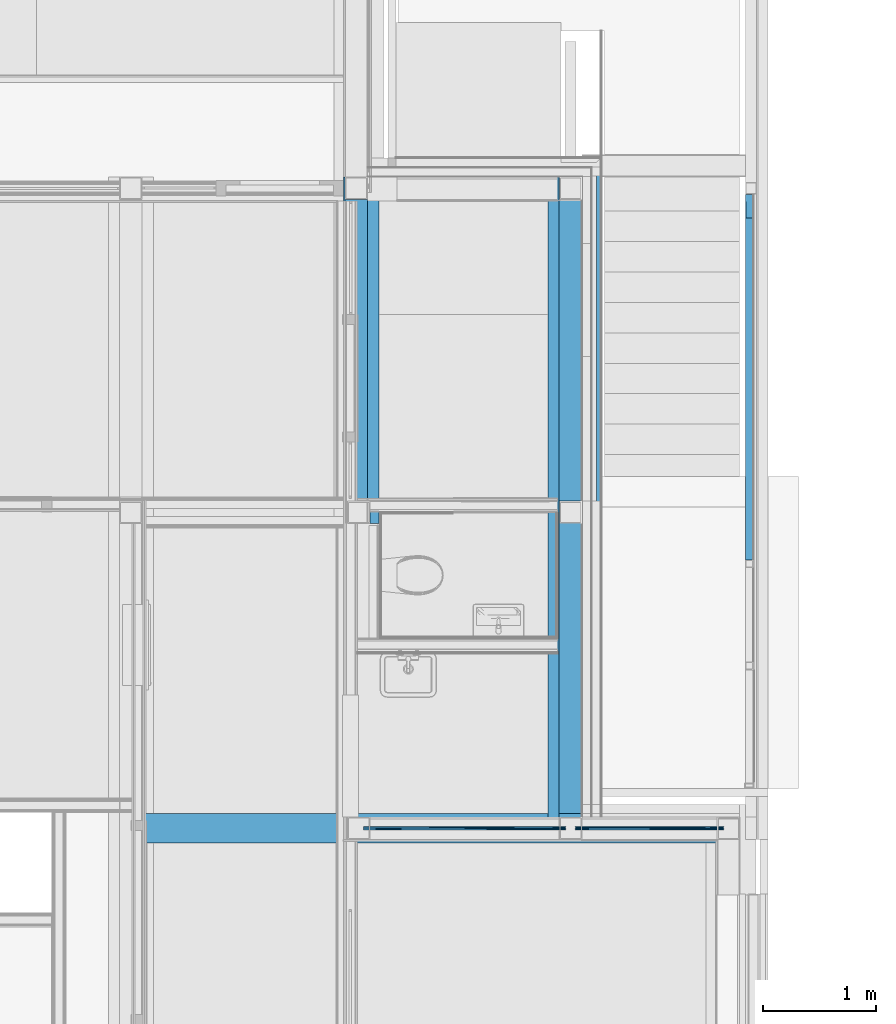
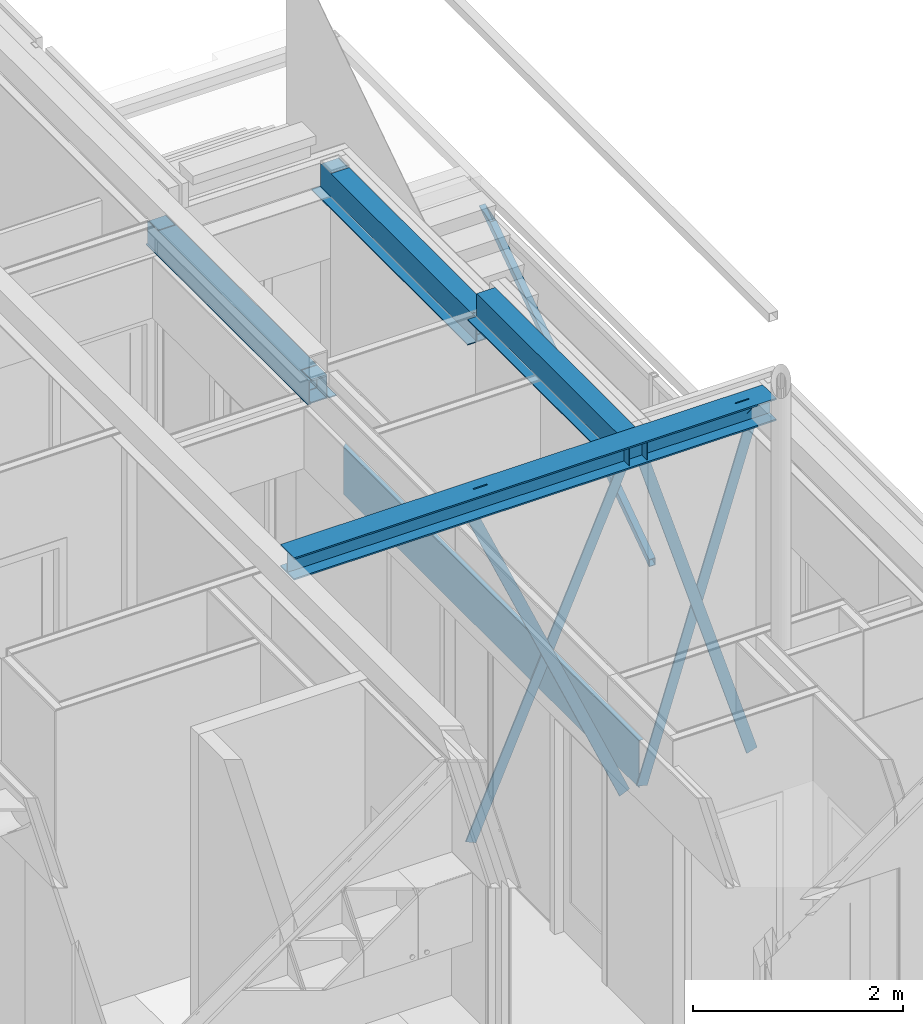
# One storey, part 14 of 165: 10 beams.
"""IFC2X3 building model written with IfcOpenShell, lengths in millimetres."""

from ifc_helpers import new_model, entity, si_unit, converted_unit, derived_unit, money_unit, direction, frame, origin_with_axes, place, context, subcontext, project, spatial, faceted_brep, material, type_object, element, save


model = new_model("IFC2X3")

# Units and contexts
model_context = context("Model", 3, precision=0.01, world=origin_with_axes(), true_north=direction((0.0, 1.0)))
body_context = subcontext(model_context, "Body", "Model", "MODEL_VIEW")
ifc_project = project(units=[si_unit("LENGTHUNIT", "METRE", prefix="MILLI"), si_unit("AREAUNIT", "SQUARE_METRE"), si_unit("VOLUMEUNIT", "CUBIC_METRE"), converted_unit("PLANEANGLEUNIT", "DEGREE", entity("IfcPlaneAngleMeasure", 0.0174532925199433), si_unit("PLANEANGLEUNIT", "RADIAN"), dimensions=[0, 0, 0, 0, 0, 0, 0]), money_unit("EUR"), converted_unit("TIMEUNIT", "Year", entity("IfcTimeMeasure", 31556926.0), si_unit("TIMEUNIT", "SECOND"), dimensions=[0, 0, 1, 0, 0, 0, 0]), si_unit("MASSUNIT", "GRAM", prefix="KILO"), si_unit("THERMODYNAMICTEMPERATUREUNIT", "DEGREE_CELSIUS"), si_unit("LUMINOUSINTENSITYUNIT", "LUMEN"), si_unit("ENERGYUNIT", "JOULE", prefix="MEGA"), derived_unit("THERMALCONDUCTANCEUNIT", [(si_unit("POWERUNIT", "WATT"), 1), (si_unit("LENGTHUNIT", "METRE"), -1), (si_unit("THERMODYNAMICTEMPERATUREUNIT", "KELVIN"), -1)]), derived_unit("SPECIFICHEATCAPACITYUNIT", [(si_unit("ENERGYUNIT", "JOULE"), 1), (si_unit("MASSUNIT", "GRAM", prefix="KILO"), -1), (si_unit("THERMODYNAMICTEMPERATUREUNIT", "KELVIN"), -1)]), derived_unit("MASSDENSITYUNIT", [(si_unit("MASSUNIT", "GRAM", prefix="KILO"), 1), (si_unit("VOLUMEUNIT", "CUBIC_METRE"), -1)])], contexts=[model_context])

# Site, building, storey
site_placement = place(None, origin_with_axes())
site = spatial("IfcSite", under=ifc_project, at=site_placement, Name="Site", CompositionType="ELEMENT")
building_placement = place(site_placement, origin_with_axes())
building = spatial("IfcBuilding", under=site, at=building_placement, Name="Naam gebouw", CompositionType="ELEMENT")
storey_placement = place(building_placement, origin_with_axes())
storey = spatial("IfcBuildingStorey", under=building, at=storey_placement, Name="Begane grond", CompositionType="ELEMENT", Elevation=0.0)

# Beams
ifc_material_1 = material(Name="Metaal - Staal C")
beam_type_1 = type_object("IfcBeamType", Name="HEB260 260 x 260", PredefinedType="BEAM")
beam_1_placement = place(storey_placement, frame((29900.0, 16649.99778166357, 3730.0), z_axis=(0.0, 0.0, 1.0), x_axis=(0.0, 1.0, 0.0)))
element("IfcBeam", 1, at=beam_1_placement, inside=storey, type_object=beam_type_1, material=ifc_material_1, Name="h METAAL_Regenwaterafvoer-x", ObjectType="BEAM", context=body_context, shape_type="Brep", body=[
    faceted_brep([(-129.999999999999, 0.0, -129.9999999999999), (-129.999999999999, 5299.000960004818, -129.9999999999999), (129.999999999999, 5299.000960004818, -129.9999999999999), (129.999999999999, 0.0, -129.9999999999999), (15.00000000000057, 1645.357160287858, -129.9999999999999), (15.00000000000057, 1656.75517363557, -129.9999999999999), (0.0, 1656.75517363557, -129.9999999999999), (0.0, 1645.357160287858, -129.9999999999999), (0.0, 3234.642856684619, -129.9999999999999), (-15.00000000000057, 3234.642856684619, -129.9999999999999), (-15.00000000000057, 3223.244843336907, -129.9999999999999), (0.0, 3223.244843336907, -129.9999999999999), (-129.999999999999, 0.0, -112.4999999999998), (-129.999999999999, 5299.000960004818, -112.4999999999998), (-4.999999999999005, 5299.000960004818, -112.4999999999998), (-4.999999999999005, 5299.000960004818, 112.4999999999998), (-129.999999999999, 5299.000960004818, 112.4999999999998), (-129.999999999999, 5299.000960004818, 129.9999999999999), (129.999999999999, 5299.000960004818, 129.9999999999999), (129.999999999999, 5299.000960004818, 112.4999999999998), (4.999999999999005, 5299.000960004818, 112.4999999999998), (4.999999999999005, 5299.000960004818, -112.4999999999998), (129.999999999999, 5299.000960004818, -112.4999999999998), (129.999999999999, 0.0, -112.4999999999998), (4.999999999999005, 0.0, -112.4999999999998), (4.999999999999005, 0.0, 112.4999999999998), (129.999999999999, 0.0, 112.4999999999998), (129.999999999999, 0.0, 129.9999999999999), (-129.999999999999, 0.0, 129.9999999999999), (-129.999999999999, 0.0, 112.4999999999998), (-4.999999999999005, 0.0, 112.4999999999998), (-4.999999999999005, 0.0, -112.4999999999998), (15.00000000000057, 1654.89977943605, -125.7922309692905), (0.0, 1654.89977943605, -125.7922309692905), (-15.00000000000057, 3225.100237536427, -125.7922309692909), (0.0, 3225.100237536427, -125.7922309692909), (-4.999999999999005, 213.7915805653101, 112.4999999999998), (-4.999999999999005, 153.3396505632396, 37.72017749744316), (-4.999999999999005, 246.6603494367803, -37.72017749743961), (-4.999999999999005, 368.0981832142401, 112.4999999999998), (-15.00000000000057, 368.0981832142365, 112.4999999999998), (-15.00000000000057, 213.7915805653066, 112.4999999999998), (1.49213974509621e-10, 3252.061437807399, 129.9999999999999), (15.00000000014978, 3252.061437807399, 129.9999999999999), (15.00000000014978, 3097.754835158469, 129.9999999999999), (1.49213974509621e-10, 3097.754835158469, 129.9999999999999), (0.0, 382.2451648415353, 129.9999999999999), (0.0, 227.9385621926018, 129.9999999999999), (-15.00000000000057, 227.9385621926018, 129.9999999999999), (-15.00000000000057, 382.2451648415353, 129.9999999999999), (4.999999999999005, 3111.901816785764, 112.4999999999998), (15.00000000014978, 3111.901816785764, 112.4999999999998), (15.00000000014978, 3266.208419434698, 112.4999999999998), (4.999999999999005, 3266.208419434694, 112.4999999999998), (4.999999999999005, 3326.660349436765, 37.72017749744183), (4.999999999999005, 3233.339650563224, -37.72017749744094), (0.0, 153.3396505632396, 37.72017749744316), (0.0, 246.6603494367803, -37.72017749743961), (1.49213974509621e-10, 3326.660349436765, 37.72017749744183), (1.49213974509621e-10, 3233.339650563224, -37.72017749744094)], [[[0, 1, 2, 3], [4, 5, 6, 7], [8, 9, 10, 11]], [[12, 13, 1, 0]], [[1, 13, 14, 15, 16, 17, 18, 19, 20, 21, 22, 2]], [[3, 2, 22, 23]], [[23, 24, 25, 26, 27, 28, 29, 30, 31, 12, 0, 3]], [[4, 32, 5]], [[32, 33, 6, 5]], [[6, 33, 7]], [[33, 32, 4, 7]], [[34, 9, 8, 35]], [[34, 10, 9]], [[35, 11, 10, 34]], [[35, 8, 11]], [[31, 14, 13, 12]], [[30, 36, 37, 38, 39, 15, 14, 31]], [[15, 39, 40, 41, 36, 30, 29, 16]], [[28, 17, 16, 29]], [[27, 18, 17, 28], [42, 43, 44, 45], [46, 47, 48, 49]], [[26, 19, 18, 27]], [[26, 25, 50, 51, 52, 53, 20, 19]], [[21, 20, 53, 54, 55, 50, 25, 24]], [[23, 22, 21, 24]], [[48, 47, 56, 37, 36, 41]], [[37, 56, 57, 38]], [[46, 49, 40, 39, 38, 57]], [[40, 49, 48, 41]], [[58, 54, 53, 52, 43, 42]], [[44, 43, 52, 51]], [[51, 50, 55, 59, 45, 44]], [[42, 45, 59, 58]], [[46, 57, 56, 47]], [[55, 54, 58, 59]]]),
])
beam_type_2 = type_object("IfcBeamType", Name="28 THQ enkele flens 01 315 x 277", PredefinedType="BEAM")
beam_2_placement = place(storey_placement, frame((26500.0, 19350.00039292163, 3570.0), z_axis=(0.0, 0.0, 1.0), x_axis=(1.0, 0.0, 0.0)))
element("IfcBeam", 2, at=beam_2_placement, inside=storey, type_object=beam_type_2, material=ifc_material_1, Name="h METAAL_Regenwaterafvoer-x", ObjectType="BEAM", context=body_context, shape_type="Brep", body=[
    faceted_brep([(94.99999999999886, 10.00000000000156, -20.00000000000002), (-70.00000000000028, 10.00000000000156, -20.00000000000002), (-70.00000000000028, 190.0000000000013, -20.00000000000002), (94.99999999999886, 190.0000000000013, -20.00000000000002), (109.9999999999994, 10.00000000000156, -277.0000000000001), (109.9999999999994, 10.00000000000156, -265.0000000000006), (100.9999999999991, 10.00000000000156, -265.0000000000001), (100.9999999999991, 10.00000000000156, 0.0), (-70.00000000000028, 10.00000000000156, 0.0), (94.99999999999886, 10.00000000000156, -265.0000000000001), (-70.00000000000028, 10.00000000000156, -265.0000000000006), (-70.00000000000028, 10.00000000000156, -277.0000000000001), (-70.00000000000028, 190.0000000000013, 0.0), (100.9999999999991, 190.0000000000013, 0.0), (100.9999999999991, 190.0000000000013, -265.0000000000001), (109.9999999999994, 190.0000000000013, -265.0000000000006), (109.9999999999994, 190.0000000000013, -277.0000000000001), (-70.00000000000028, 190.0000000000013, -277.0000000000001), (-70.00000000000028, 190.0000000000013, -265.0000000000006), (94.99999999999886, 190.0000000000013, -265.0000000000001)], [[[0, 1, 2, 3]], [[4, 5, 6, 7, 8, 1, 0, 9, 10, 11]], [[1, 8, 12, 2]], [[13, 14, 15, 16, 17, 18, 19, 3, 2, 12]], [[19, 9, 0, 3]], [[16, 15, 5, 4]], [[14, 6, 5, 15]], [[13, 7, 6, 14]], [[12, 8, 7, 13]], [[18, 10, 9, 19]], [[11, 10, 18, 17]], [[4, 11, 17, 16]]]),
    faceted_brep([(90.00000000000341, 2884.99945414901, -277.0000000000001), (-89.9999999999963, 2884.99945414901, -277.0000000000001), (-89.9999999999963, 3064.99945414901, -277.0000000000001), (90.00000000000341, 3064.99945414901, -277.0000000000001), (90.00000000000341, 2884.99945414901, -265.0000000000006), (-89.9999999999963, 2884.99945414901, -265.0000000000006), (-89.9999999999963, 3064.99945414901, -265.0000000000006), (90.00000000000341, 3064.99945414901, -265.0000000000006)], [[[0, 1, 2, 3]], [[0, 4, 5, 1]], [[1, 5, 6, 2]], [[2, 6, 7, 3]], [[3, 7, 4, 0]], [[6, 5, 4, 7]]]),
    faceted_brep([(90.00000000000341, 2884.99945414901, -20.00000000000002), (-89.9999999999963, 2884.99945414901, -20.00000000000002), (-89.9999999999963, 3064.99945414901, -20.00000000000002), (90.00000000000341, 3064.99945414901, -20.00000000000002), (90.00000000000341, 2884.99945414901, 0.0), (-89.9999999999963, 2884.99945414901, 0.0), (-89.9999999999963, 3064.99945414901, 0.0), (90.00000000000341, 3064.99945414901, 0.0)], [[[0, 1, 2, 3]], [[0, 4, 5, 1]], [[1, 5, 6, 2]], [[2, 6, 7, 3]], [[3, 7, 4, 0]], [[6, 5, 4, 7]]]),
    faceted_brep([(-94.99999999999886, 0.0, -20.00000000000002), (-94.99999999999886, 2874.999454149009, -20.00000000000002), (94.99999999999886, 2874.999454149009, -20.00000000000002), (94.99999999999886, 200.0000000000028, -20.00000000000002), (-80.00000000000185, 200.0000000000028, -20.00000000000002), (-80.00000000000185, 0.0, -20.00000000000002), (-94.99999999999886, 0.0, -265.0000000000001), (-94.99999999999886, 2874.999454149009, -265.0000000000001), (-99.99999999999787, 2874.999454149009, -277.0000000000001), (-99.99999999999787, 2874.999454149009, 0.0), (100.000000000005, 2874.999454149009, 0.0), (100.000000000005, 2874.999454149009, -277.0000000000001), (94.99999999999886, 2874.999454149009, -265.0000000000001), (94.99999999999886, 200.0000000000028, -265.0000000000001), (120.000000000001, 200.0000000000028, -277.0000000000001), (120.000000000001, 200.0000000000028, -265.0000000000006), (100.9999999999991, 200.0000000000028, -265.0000000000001), (100.9999999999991, 200.0000000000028, 0.0), (-80.00000000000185, 200.0000000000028, 0.0), (-80.00000000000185, 200.0000000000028, -265.0000000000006), (-80.00000000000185, 200.0000000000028, -277.0000000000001), (-80.00000000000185, 0.0, 0.0), (-100.9999999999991, 0.0, 0.0), (-100.9999999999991, 0.0, -265.0000000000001), (-115.9999999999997, 0.0, -265.0000000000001), (-115.9999999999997, 0.0, -277.0000000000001), (-80.00000000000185, 0.0, -277.0000000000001), (-80.00000000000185, 0.0, -265.0000000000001), (-99.99999999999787, 3074.999454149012, -277.0000000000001), (-99.99999999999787, 3074.999454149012, 0.0), (-100.9999999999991, 3074.999454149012, 0.0), (100.9999999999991, 3074.999454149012, 0.0), (100.000000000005, 3074.999454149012, 0.0), (100.000000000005, 3074.999454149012, -277.0000000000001), (199.0000044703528, 3074.999454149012, -277.0000000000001), (199.0000044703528, 0.0, -277.0000000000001), (120.000000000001, 0.0, -277.000000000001), (-115.9999999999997, 3074.999454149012, -277.0000000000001), (120.000000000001, 0.0, -265.0000000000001), (199.0000044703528, 0.0, -265.0000000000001), (199.0000044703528, 3074.999454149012, -265.0000000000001), (100.9999999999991, 3074.999454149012, -265.0000000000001), (-100.9999999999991, 3074.999454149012, -265.0000000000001), (-115.9999999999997, 3074.999454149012, -265.0000000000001)], [[[0, 1, 2, 3, 4, 5]], [[6, 7, 1, 0]], [[8, 9, 10, 11], [7, 12, 2, 1]], [[3, 2, 12, 13]], [[14, 15, 16, 17, 18, 4, 3, 13, 19, 20]], [[4, 18, 21, 5]], [[0, 5, 21, 22, 23, 24, 25, 26, 27, 6]], [[13, 12, 7, 6, 27, 19]], [[8, 28, 29, 9]], [[10, 9, 29, 30, 22, 21, 18, 17, 31, 32]], [[11, 10, 32, 33]], [[8, 11, 33, 34, 35, 36, 14, 20, 26, 25, 37, 28]], [[36, 38, 15, 14]], [[16, 15, 38, 39, 40, 41]], [[31, 17, 16, 41]], [[20, 19, 27, 26]], [[23, 22, 30, 42]], [[24, 23, 42, 43]], [[25, 24, 43, 37]], [[30, 29, 28, 37, 43, 42]], [[34, 33, 32, 31, 41, 40]], [[39, 35, 34, 40]], [[39, 38, 36, 35]]]),
])
beam_3_placement = place(storey_placement, frame((28399.99998302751, 22424.97621406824, 3570.0), z_axis=(0.0, 0.0, 1.0), x_axis=(-1.0, 0.0, 0.0)))
element("IfcBeam", 3, at=beam_3_placement, inside=storey, type_object=beam_type_2, material=ifc_material_1, Name="h METAAL_Regenwaterafvoer-x", ObjectType="BEAM", context=body_context, shape_type="Brep", body=[
    faceted_brep([(-90.00000112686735, 190.0000000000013, -277.0000000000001), (89.99999887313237, 190.0000000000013, -277.0000000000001), (89.99999887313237, 10.00000000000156, -277.0000000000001), (-90.00000112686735, 10.00000000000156, -277.0000000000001), (-90.00000112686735, 190.0000000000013, -265.0000000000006), (89.99999887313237, 190.0000000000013, -265.0000000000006), (89.99999887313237, 10.00000000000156, -265.0000000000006), (-90.00000112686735, 10.00000000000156, -265.0000000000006)], [[[0, 1, 2, 3]], [[0, 4, 5, 1]], [[1, 5, 6, 2]], [[2, 6, 7, 3]], [[3, 7, 4, 0]], [[6, 5, 4, 7]]]),
    faceted_brep([(-90.00000112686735, 190.0000000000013, -20.00000000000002), (89.99999887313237, 190.0000000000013, -20.00000000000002), (89.99999887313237, 10.00000000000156, -20.00000000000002), (-90.00000112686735, 10.00000000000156, -20.00000000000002), (-90.00000112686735, 190.0000000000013, 0.0), (89.99999887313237, 190.0000000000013, 0.0), (89.99999887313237, 10.00000000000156, 0.0), (-90.00000112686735, 10.00000000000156, 0.0)], [[[0, 1, 2, 3]], [[0, 4, 5, 1]], [[1, 5, 6, 2]], [[2, 6, 7, 3]], [[3, 7, 4, 0]], [[6, 5, 4, 7]]]),
    faceted_brep([(-90.00000112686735, 2884.975821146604, -265.0000000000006), (89.99999887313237, 2884.975821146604, -265.0000000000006), (89.99999887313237, 2974.975821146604, -265.0000000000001), (-90.00000112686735, 2974.975821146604, -265.0000000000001), (89.99999887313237, 2884.975821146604, -277.0000000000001), (-90.00000112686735, 2884.975821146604, -277.0000000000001), (89.99999887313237, 2974.975821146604, -277.0000000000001), (-90.00000112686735, 2974.975821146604, -277.0000000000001)], [[[0, 1, 2, 3]], [[4, 1, 0, 5]], [[6, 2, 1, 4]], [[6, 7, 3, 2]], [[5, 0, 3, 7]], [[4, 5, 7, 6]]]),
    faceted_brep([(-90.00000112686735, 2884.975821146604, 0.0), (89.99999887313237, 2884.975821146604, 0.0), (89.99999887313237, 2974.975821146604, 0.0), (-90.00000112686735, 2974.975821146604, 0.0), (89.99999887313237, 2884.975821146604, -20.00000000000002), (-90.00000112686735, 2884.975821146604, -20.00000000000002), (89.99999887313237, 2974.975821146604, -20.00000000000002), (-90.00000112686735, 2974.975821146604, -20.00000000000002)], [[[0, 1, 2, 3]], [[4, 1, 0, 5]], [[6, 2, 1, 4]], [[6, 7, 3, 2]], [[5, 0, 3, 7]], [[4, 5, 7, 6]]]),
    faceted_brep([(-94.99999999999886, 200.0000000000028, -265.0000000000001), (-94.99999999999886, 2874.975821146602, -265.0000000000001), (-94.99999999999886, 2874.975821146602, -20.00000000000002), (-94.99999999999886, 200.0000000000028, -20.00000000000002), (94.99999999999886, 200.0000000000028, -265.0000000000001), (94.99999999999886, 2874.975821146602, -265.0000000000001), (-100.0000011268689, 2874.975821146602, -277.0000000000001), (-100.0000011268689, 2874.975821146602, 0.0), (99.99999887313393, 2874.975821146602, 0.0), (99.99999887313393, 2874.975821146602, -277.0000000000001), (94.99999999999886, 2874.975821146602, -20.00000000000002), (94.99999999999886, 200.0000000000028, -20.00000000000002), (99.99999887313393, 200.0000000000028, -277.0000000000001), (99.99999887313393, 200.0000000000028, 0.0), (-100.0000011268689, 200.0000000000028, 0.0), (-100.0000011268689, 200.0000000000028, -277.0000000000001), (-100.0000011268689, 2974.975821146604, -277.0000000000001), (-100.0000011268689, 2974.975821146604, 0.0), (100.9999999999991, 2974.975821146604, 0.0), (99.99999887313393, 2974.975821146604, 0.0), (-100.9999999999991, 2974.975821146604, 0.0), (-100.9999999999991, 0.0, 0.0), (-100.0000011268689, 0.0, 0.0), (99.99999887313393, 0.0, 0.0), (100.9999999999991, 0.0, 0.0), (99.99999887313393, 2974.975821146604, -277.0000000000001), (199.0000044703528, 2974.975821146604, -277.0000000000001), (199.0000044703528, 0.0, -277.0000000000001), (99.99999887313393, 0.0, -277.0000000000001), (-100.0000011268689, 0.0, -277.0000000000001), (-115.9999999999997, 0.0, -277.0000000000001), (-115.9999999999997, 2974.975821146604, -277.0000000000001), (-115.9999999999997, 2974.975821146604, -265.0000000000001), (-100.9999999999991, 2974.975821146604, -265.0000000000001), (100.9999999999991, 2974.975821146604, -265.0000000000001), (199.0000044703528, 2974.975821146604, -265.0000000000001), (-100.9999999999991, 0.0, -265.0000000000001), (-115.9999999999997, 0.0, -265.0000000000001), (199.0000044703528, 0.0, -265.0000000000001), (100.9999999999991, 0.0, -265.0000000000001)], [[[0, 1, 2, 3]], [[4, 5, 1, 0]], [[6, 7, 8, 9], [5, 10, 2, 1]], [[3, 2, 10, 11]], [[12, 13, 14, 15], [4, 0, 3, 11]], [[11, 10, 5, 4]], [[16, 17, 7, 6]], [[18, 19, 8, 7, 17, 20, 21, 22, 14, 13, 23, 24]], [[9, 8, 19, 25]], [[6, 9, 25, 26, 27, 28, 12, 15, 29, 30, 31, 16]], [[12, 28, 23, 13]], [[15, 14, 22, 29]], [[20, 17, 16, 31, 32, 33]], [[26, 25, 19, 18, 34, 35]], [[36, 21, 20, 33]], [[30, 29, 22, 21, 36, 37]], [[24, 23, 28, 27, 38, 39]], [[24, 39, 34, 18]], [[38, 27, 26, 35]], [[30, 37, 32, 31]], [[37, 36, 33, 32]], [[39, 38, 35, 34]]]),
])
beam_4_placement = place(storey_placement, frame((28400.00000447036, 19450.00039292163, 3859.999999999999), z_axis=(0.0, 0.0, 1.0), x_axis=(-1.0, 0.0, 0.0)))
element("IfcBeam", 4, at=beam_4_placement, inside=storey, type_object=beam_type_2, material=ifc_material_1, Name="h METAAL_Regenwaterafvoer-x", ObjectType="BEAM", context=body_context, shape_type="Brep", body=[
    faceted_brep([(-89.99997855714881, 2890.002611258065, -276.9999999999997), (90.00002144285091, 2890.002611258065, -276.9999999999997), (90.00002144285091, 2710.002611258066, -276.9999999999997), (-89.99997855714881, 2710.002611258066, -276.9999999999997), (-89.99997855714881, 2890.002611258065, -265.0000000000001), (90.00002144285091, 2890.002611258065, -265.0000000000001), (90.00002144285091, 2710.002611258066, -265.0000000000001), (-89.99997855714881, 2710.002611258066, -265.0000000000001)], [[[0, 1, 2, 3]], [[0, 4, 5, 1]], [[1, 5, 6, 2]], [[2, 6, 7, 3]], [[3, 7, 4, 0]], [[6, 5, 4, 7]]]),
    faceted_brep([(90.00002031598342, 0.0, -265.0000000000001), (90.00002031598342, 89.99999999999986, -265.0000000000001), (-89.9999796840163, 89.99999999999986, -265.0000000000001), (-89.9999796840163, 0.0, -265.0000000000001), (90.00002031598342, 89.99999999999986, -276.9999999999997), (90.00002031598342, 0.0, -277.0000000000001), (-89.9999796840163, 89.99999999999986, -276.9999999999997), (-89.9999796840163, 0.0, -277.0000000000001)], [[[0, 1, 2, 3]], [[4, 1, 0, 5]], [[6, 2, 1, 4]], [[6, 7, 3, 2]], [[7, 5, 0, 3]], [[6, 4, 5, 7]]]),
    faceted_brep([(94.99999999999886, 0.0, -260.0000000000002), (100.000020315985, 0.0, -260.0000000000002), (100.000020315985, 0.0, -277.0000000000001), (199.0000044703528, 0.0, -277.0000000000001), (199.0000044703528, 0.0, -265.0000000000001), (100.9999999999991, 0.0, -265.0000000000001), (100.9999999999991, 0.0, 0.0), (-100.9999999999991, 0.0, 0.0), (-100.9999999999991, 0.0, -265.0000000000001), (-115.9999999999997, 0.0, -265.0000000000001), (-115.9999999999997, 0.0, -277.0000000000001), (-99.99997968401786, 0.0, -277.0000000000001), (-99.99997968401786, 0.0, -260.0000000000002), (-94.99999999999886, 0.0, -260.0000000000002), (-94.99999999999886, 0.0, -20.00000000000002), (94.99999999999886, 0.0, -20.00000000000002), (100.000020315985, 100.0000000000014, -260.0000000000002), (94.99999999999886, 100.0000000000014, -260.0000000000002), (100.000020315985, 100.0000000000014, -276.9999999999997), (-99.99997968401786, 100.0000000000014, -276.9999999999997), (-115.9999999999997, 2800.002611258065, -277.0000000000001), (-109.5249784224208, 2800.002611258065, -277.0000000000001), (-109.5249784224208, 2815.002611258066, -277.0000000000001), (-115.9999999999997, 2815.002611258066, -277.0000000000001), (-115.9999999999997, 2900.002611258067, -277.0000000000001), (-99.99997855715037, 2900.002611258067, -276.9999999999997), (-99.99997855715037, 2700.002611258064, -276.9999999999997), (100.0000214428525, 2700.002611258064, -276.9999999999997), (100.0000214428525, 2900.002611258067, -277.0000000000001), (199.0000044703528, 2900.002611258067, -277.0000000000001), (106.8035929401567, 2800.002611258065, -277.0000000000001), (106.8035929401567, 2785.002611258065, -277.0000000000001), (164.2512410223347, 2785.002611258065, -277.0000000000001), (164.2512410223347, 2800.002611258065, -277.0000000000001), (199.0000044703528, 2900.002611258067, -265.0000000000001), (100.9999999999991, 2900.002611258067, -265.0000000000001), (158.9599024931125, 2785.002611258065, -265.0000000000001), (134.0178789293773, 2785.002611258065, -265.0000000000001), (134.0178789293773, 2800.002611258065, -265.0000000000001), (158.9599024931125, 2800.002611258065, -265.0000000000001), (100.9999999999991, 2795.002611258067, -242.4999999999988), (100.9999999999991, 2795.002611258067, -17.49999999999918), (100.9999999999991, 2670.002611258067, -17.49999999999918), (100.9999999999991, 2670.002611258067, 0.0), (100.9999999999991, 2900.002611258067, -259.9999999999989), (100.9999999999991, 2670.002611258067, -259.9999999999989), (100.9999999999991, 2670.002611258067, -242.4999999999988), (-100.9999999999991, 2670.002611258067, 0.0), (-100.9999999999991, 2795.002611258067, -242.4999999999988), (-100.9999999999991, 2670.002611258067, -242.4999999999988), (-100.9999999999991, 2670.002611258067, -259.9999999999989), (-100.9999999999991, 2900.002611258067, -259.9999999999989), (-100.9999999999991, 2900.002611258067, -265.0000000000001), (-100.9999999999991, 2670.002611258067, -17.49999999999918), (-100.9999999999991, 2795.002611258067, -17.49999999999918), (-115.9999999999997, 2900.002611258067, -265.0000000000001), (-115.9999999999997, 2815.002611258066, -274.9606230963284), (-115.9999999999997, 2800.002611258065, -274.9606230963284), (-99.99997968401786, 100.0000000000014, -260.0000000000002), (-94.99999999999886, 100.0000000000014, -260.0000000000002), (-94.99999999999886, 100.0000000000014, -265.0000000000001), (-94.99999999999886, 2700.002611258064, -265.0000000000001), (-94.99999999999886, 2700.002611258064, -260.0000000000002), (-94.99999999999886, 2670.002611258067, -259.9999999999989), (-94.99999999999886, 2670.002611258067, -242.4999999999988), (-94.99999999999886, 2795.002611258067, -242.4999999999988), (-94.99999999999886, 2795.002611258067, -20.00000000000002), (94.99999999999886, 2795.002611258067, -20.00000000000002), (94.99999999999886, 100.0000000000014, -265.0000000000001), (94.99999999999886, 2795.002611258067, -242.4999999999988), (94.99999999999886, 2670.002611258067, -242.4999999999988), (94.99999999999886, 2670.002611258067, -259.9999999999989), (94.99999999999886, 2700.002611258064, -260.0000000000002), (94.99999999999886, 2700.002611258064, -265.0000000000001), (-99.99997855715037, 2900.002611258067, -260.0000000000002), (-99.99997855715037, 2700.002611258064, -260.0000000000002), (100.0000214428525, 2700.002611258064, -260.0000000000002), (100.0000214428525, 2900.002611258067, -260.0000000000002)], [[[0, 1, 2, 3, 4, 5, 6, 7, 8, 9, 10, 11, 12, 13, 14, 15]], [[16, 1, 0, 17]], [[18, 2, 1, 16]], [[18, 19, 11, 10, 20, 21, 22, 23, 24, 25, 26, 27, 28, 29, 3, 2], [30, 31, 32, 33]], [[3, 29, 34, 4]], [[4, 34, 35, 5], [36, 37, 38, 39]], [[40, 41, 42, 43, 6, 5, 35, 44, 45, 46]], [[7, 6, 43, 47]], [[48, 49, 50, 51, 52, 8, 7, 47, 53, 54]], [[8, 52, 55, 9]], [[10, 9, 55, 24, 23, 56, 57, 20]], [[58, 12, 11, 19]], [[59, 13, 12, 58]], [[13, 59, 60, 61, 62, 63, 64, 65, 66, 14]], [[15, 14, 66, 67]], [[68, 17, 0, 15, 67, 69, 70, 71, 72, 73]], [[58, 19, 18, 16, 17, 68, 60, 59]], [[21, 20, 57]], [[57, 56, 22, 21]], [[22, 56, 23]], [[51, 74, 25, 24, 55, 52]], [[25, 74, 75, 26]], [[26, 75, 62, 61, 73, 72, 76, 27]], [[27, 76, 77, 28]], [[29, 28, 77, 44, 35, 34]], [[30, 38, 37, 31]], [[31, 37, 36, 32]], [[39, 33, 32, 36]], [[33, 39, 38, 30]], [[66, 65, 48, 54, 41, 40, 69, 67]], [[42, 41, 54, 53]], [[43, 42, 53, 47]], [[77, 76, 72, 71, 45, 44]], [[46, 45, 71, 70]], [[40, 46, 70, 69]], [[65, 64, 49, 48]], [[64, 63, 50, 49]], [[62, 75, 74, 51, 50, 63]], [[61, 60, 68, 73]]]),
    faceted_brep([(-100.9999999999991, 2900.002611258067, -17.49999999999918), (-100.9999999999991, 2900.002611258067, -242.4999999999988), (-100.9999999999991, 2805.002611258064, -242.4999999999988), (-100.9999999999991, 2805.002611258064, -17.49999999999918), (-94.99999999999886, 2900.002611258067, -20.00000000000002), (-94.99999999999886, 2900.002611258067, -242.4999999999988), (100.9999999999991, 2900.002611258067, -17.49999999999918), (100.9999999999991, 2900.002611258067, -242.4999999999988), (94.99999999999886, 2900.002611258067, -242.4999999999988), (94.99999999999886, 2900.002611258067, -20.00000000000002), (-94.99999999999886, 2805.002611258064, -242.4999999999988), (100.9999999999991, 2805.002611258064, -17.49999999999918), (-94.99999999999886, 2805.002611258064, -20.00000000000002), (94.99999999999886, 2805.002611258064, -20.00000000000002), (94.99999999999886, 2805.002611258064, -242.4999999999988), (100.9999999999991, 2805.002611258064, -242.4999999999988)], [[[0, 1, 2, 3]], [[4, 5, 1, 0, 6, 7, 8, 9]], [[10, 2, 1, 5]], [[11, 3, 2, 10, 12, 13, 14, 15]], [[6, 0, 3, 11]], [[12, 10, 5, 4]], [[11, 15, 7, 6]], [[15, 14, 8, 7]], [[8, 14, 13, 9]], [[9, 13, 12, 4]]]),
])
ifc_material_2 = material(Name="47 waterdichte laag - bitumen")
beam_type_3 = type_object("IfcBeamType", Name="41 Plint stucwerk 48 x 550", PredefinedType="BEAM")
beam_5_placement = place(storey_placement, frame((28676.00007388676, 22600.97621037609, 80.00000000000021), z_axis=(0.0, 0.0, 1.0), x_axis=(-1.0, 0.0, 0.0)))
element("IfcBeam", 5, at=beam_5_placement, inside=storey, type_object=beam_type_3, material=ifc_material_2, Name="g2- Gebakken klei_Regenwaterafvoer-x", ObjectType="BEAM", context=body_context, shape_type="Brep", body=[
    faceted_brep([(0.0, 0.0, 0.0), (0.0, 5670.978428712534, 0.0), (0.0, 5670.978428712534, -4.000000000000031), (0.0, 0.0, -4.000000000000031), (48.00000000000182, 47.99999928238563, 0.0), (47.99999999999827, 5670.978428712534, 0.0), (47.99999999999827, 5670.978428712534, -550.0000000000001), (44.00000000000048, 5670.978428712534, -550.0), (44.00000000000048, 5670.978428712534, -4.000000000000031), (44.00000000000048, 43.99999934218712, -4.000000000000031), (44.00000000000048, 43.99999934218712, -550.0), (48.00000000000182, 47.99999928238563, -550.0000000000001)], [[[0, 1, 2, 3]], [[4, 5, 1, 0]], [[2, 1, 5, 6, 7, 8]], [[3, 2, 8, 9]], [[4, 0, 3, 9, 10, 11]], [[11, 6, 5, 4]], [[10, 7, 6, 11]], [[9, 8, 7, 10]]]),
])
beam_type_4 = type_object("IfcBeamType", Name="70X70X5  70 x 70", PredefinedType="BEAM")
beam_6_placement = place(storey_placement, frame((29984.99999999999, 19029.99777137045, 402.5413552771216), z_axis=(0.0, 0.0, 1.0), x_axis=(1.0, 0.0, 0.0)))
element("IfcBeam", 6, at=beam_6_placement, inside=storey, type_object=beam_type_4, material=ifc_material_1, Name="h METAAL_Regenwaterafvoer-x", ObjectType="BEAM", context=body_context, shape_type="Brep", body=[
    faceted_brep([(-35.00000000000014, 0.0, -42.52893474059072), (-35.00000000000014, 3237.776769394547, 2192.471094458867), (35.00000000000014, 3237.776769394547, 2192.471094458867), (35.00000000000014, 0.0, -42.52893474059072), (-35.00000000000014, 0.0, 42.52893474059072), (-35.00000000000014, 3013.149135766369, 2122.471094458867), (35.00000000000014, 3013.149135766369, 2122.471094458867), (-30.00000000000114, 3029.193966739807, 2127.471094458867), (-30.00000000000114, 3221.731938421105, 2187.471094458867), (30.00000000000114, 3221.731938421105, 2187.471094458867), (30.00000000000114, 3029.193966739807, 2127.471094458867), (35.00000000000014, 0.0, 42.52893474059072), (30.00000000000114, 0.0, -36.45337263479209), (-30.00000000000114, 0.0, -36.45337263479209), (-30.00000000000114, 0.0, 36.45337263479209), (30.00000000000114, 0.0, 36.45337263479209)], [[[0, 1, 2, 3]], [[4, 5, 1, 0]], [[2, 1, 5, 6], [7, 8, 9, 10]], [[3, 2, 6, 11]], [[4, 0, 3, 11], [12, 13, 14, 15]], [[11, 6, 5, 4]], [[13, 8, 7, 14]], [[12, 9, 8, 13]], [[15, 10, 9, 12]], [[14, 7, 10, 15]]]),
])
beam_type_5 = type_object("IfcBeamType", Name="Metaal - Staal C 15 x 120", PredefinedType="BEAM")
beam_7_placement = place(storey_placement, frame((28299.99998302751, 16634.99778166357, -230.0), z_axis=(0.0, 0.0, 1.0), x_axis=(0.0, 1.0, 0.0)))
element("IfcBeam", 7, at=beam_7_placement, inside=storey, type_object=beam_type_5, material=ifc_material_1, Name="h METAAL_Regenwaterafvoer-x", ObjectType="BEAM", context=body_context, shape_type="Brep", body=[
    faceted_brep([(0.0, 54.89976246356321, -24.20776903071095), (0.0, 1734.89974549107, 3785.79223096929), (15.00000000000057, 1734.89974549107, 3785.79223096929), (15.00000000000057, 54.89976246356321, -24.20776903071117), (0.0, -54.89976246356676, 24.20776903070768), (0.0, 1625.10022056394, 3834.207769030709), (15.00000000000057, 1625.10022056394, 3834.207769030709), (15.00000000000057, -54.89976246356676, 24.20776903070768)], [[[0, 1, 2, 3]], [[4, 5, 1, 0]], [[2, 1, 5, 6]], [[3, 2, 6, 7]], [[4, 0, 3, 7]], [[7, 6, 5, 4]]]),
])
beam_8_placement = place(storey_placement, frame((26620.0, 16664.99778166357, -230.0), z_axis=(0.0, 0.0, 1.0), x_axis=(0.0, -1.0, 0.0)))
element("IfcBeam", 8, at=beam_8_placement, inside=storey, type_object=beam_type_5, material=ifc_material_1, Name="h METAAL_Regenwaterafvoer-x", ObjectType="BEAM", context=body_context, shape_type="Brep", body=[
    faceted_brep([(0.0, 54.89976246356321, -24.2077690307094), (0.0, 1734.89974549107, 3785.79223096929), (15.00000000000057, 1734.89974549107, 3785.79223096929), (15.00000000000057, 54.89976246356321, -24.2077690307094), (0.0, -54.89976246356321, 24.20776903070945), (0.0, 1625.100220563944, 3834.207769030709), (15.00000000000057, 1625.100220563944, 3834.207769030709), (15.00000000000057, -54.89976246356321, 24.20776903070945)], [[[0, 1, 2, 3]], [[4, 5, 1, 0]], [[2, 1, 5, 6]], [[3, 2, 6, 7]], [[4, 0, 3, 7]], [[7, 6, 5, 4]]]),
])
beam_9_placement = place(storey_placement, frame((28499.99998302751, 16664.99778166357, -230.0), z_axis=(0.0, 0.0, 1.0), x_axis=(0.0, -1.0, 0.0)))
element("IfcBeam", 9, at=beam_9_placement, inside=storey, type_object=beam_type_5, material=ifc_material_1, Name="h METAAL_Regenwaterafvoer-x", ObjectType="BEAM", context=body_context, shape_type="Brep", body=[
    faceted_brep([(0.0, 57.22856429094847, -18.02474491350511), (0.0, 1257.22858126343, 3791.975255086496), (15.00000000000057, 1257.22858126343, 3791.975255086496), (15.00000000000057, 57.22856429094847, -18.02474491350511), (0.0, -57.22856429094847, 18.02474491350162), (0.0, 1142.771452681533, 3828.024744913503), (15.00000000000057, 1142.771452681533, 3828.024744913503), (15.00000000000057, -57.22856429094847, 18.02474491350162)], [[[0, 1, 2, 3]], [[4, 5, 1, 0]], [[2, 1, 5, 6]], [[3, 2, 6, 7]], [[4, 0, 3, 7]], [[7, 6, 5, 4]]]),
])
beam_10_placement = place(storey_placement, frame((29699.99999999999, 16634.99778166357, -230.0), z_axis=(0.0, 0.0, 1.0), x_axis=(0.0, 1.0, 0.0)))
element("IfcBeam", 10, at=beam_10_placement, inside=storey, type_object=beam_type_5, material=ifc_material_1, Name="h METAAL_Regenwaterafvoer-x", ObjectType="BEAM", context=body_context, shape_type="Brep", body=[
    faceted_brep([(0.0, 57.22856429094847, -18.02474491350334), (0.0, 1257.22858126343, 3791.975255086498), (15.00000000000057, 1257.22858126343, 3791.975255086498), (15.00000000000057, 57.22856429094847, -18.02474491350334), (0.0, -57.22856429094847, 18.02474491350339), (0.0, 1142.771452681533, 3828.024744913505), (15.00000000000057, 1142.771452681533, 3828.024744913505), (15.00000000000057, -57.22856429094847, 18.02474491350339)], [[[0, 1, 2, 3]], [[4, 5, 1, 0]], [[2, 1, 5, 6]], [[3, 2, 6, 7]], [[4, 0, 3, 7]], [[7, 6, 5, 4]]]),
])

save(model, "model.ifc")
